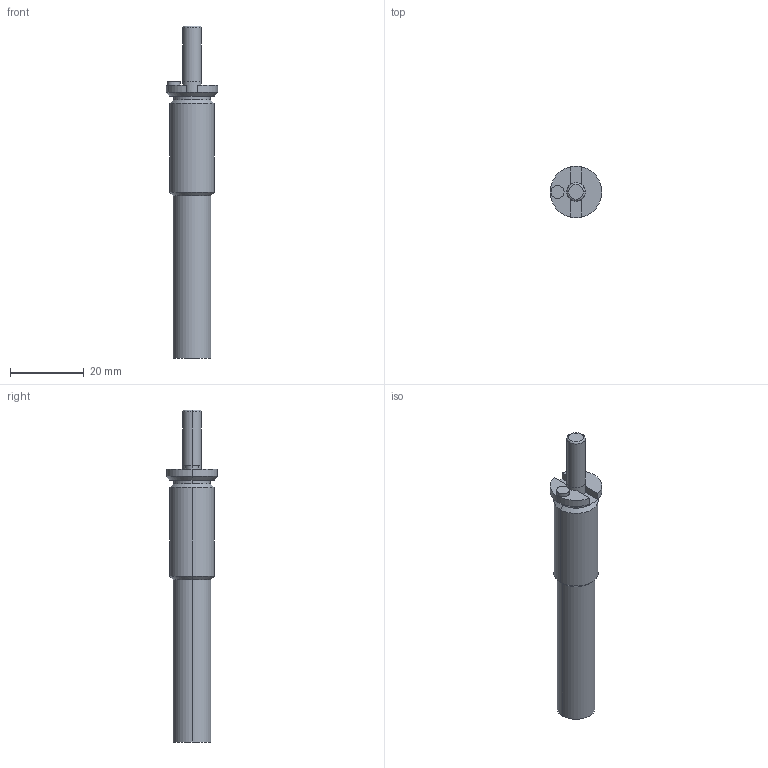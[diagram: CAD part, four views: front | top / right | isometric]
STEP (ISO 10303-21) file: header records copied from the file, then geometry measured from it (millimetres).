
FILE_DESCRIPTION(/* description */ (''),/* implementation_level */ '2;1');
FILE_NAME(/* name */ '3d_mgsb12-15_04560_r00.stp',/* time_stamp */ '2011-01-10T14:13:36+09:00',/* author */ ('MISUMI'),/* organization */ (''),/* preprocessor_version */ 'ST-DEVELOPER v11',/* originating_system */ 'UGS - NX 5.0',/* authorisation */ '');
FILE_SCHEMA (('CONFIG_CONTROL_DESIGN'));
Length unit declared in the file: millimetre
Products named in the file (1): 3d_mgsb12-15_04560_r00
Bounding box: 14 x 13.96 x 90 mm (x, y, z)
Volume: 7290.7 mm3; surface area: 3157.4 mm2
Topology: 1 solids, 1 shells, 36 faces, 78 edges, 46 vertices
Faces by surface type: cylinder 16, plane 12, cone 6, torus 2
Entity records: 1066 total; most frequent: DIRECTION 194, CARTESIAN_POINT 161, ORIENTED_EDGE 156, AXIS2_PLACEMENT_3D 79, EDGE_CURVE 78, VERTEX_POINT 46, CIRCLE 42, EDGE_LOOP 38
